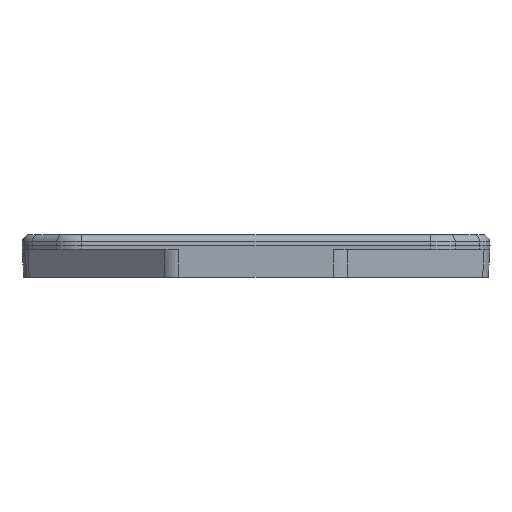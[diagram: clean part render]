
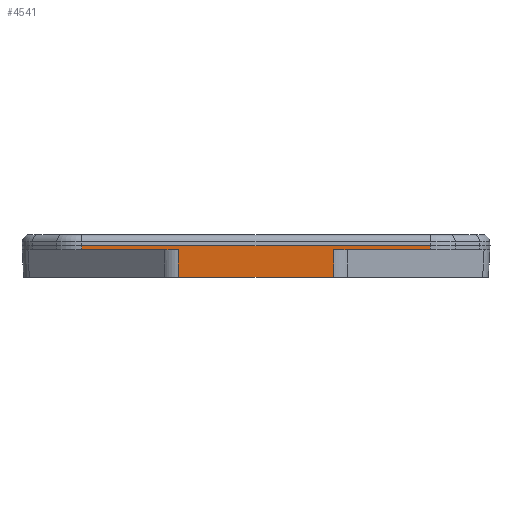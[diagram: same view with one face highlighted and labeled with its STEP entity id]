
A CAD part, left-side view. The second image highlights one B-rep face of the part: STEP entity #4541.
In plain terms, the highlighted planar face has unit normal (-0.999, 0, -0.052).
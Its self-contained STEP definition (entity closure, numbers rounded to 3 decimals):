
#146=PLANE('',#4991);
#490=FACE_OUTER_BOUND('',#742,.T.);
#742=EDGE_LOOP('',(#3298,#3299,#3300,#3301,#3302,#3303,#3304,#3305));
#1067=LINE('',#7623,#1423);
#1068=LINE('',#7625,#1424);
#1069=LINE('',#7627,#1425);
#1070=LINE('',#7629,#1426);
#1071=LINE('',#7631,#1427);
#1072=LINE('',#7633,#1428);
#1073=LINE('',#7635,#1429);
#1074=LINE('',#7636,#1430);
#1423=VECTOR('',#5943,10.);
#1424=VECTOR('',#5944,10.);
#1425=VECTOR('',#5945,10.);
#1426=VECTOR('',#5946,10.);
#1427=VECTOR('',#5947,1.);
#1428=VECTOR('',#5948,1.);
#1429=VECTOR('',#5949,9.);
#1430=VECTOR('',#5950,10.);
#1985=VERTEX_POINT('',#7621);
#1986=VERTEX_POINT('',#7622);
#1987=VERTEX_POINT('',#7624);
#1988=VERTEX_POINT('',#7626);
#1989=VERTEX_POINT('',#7628);
#1990=VERTEX_POINT('',#7630);
#1991=VERTEX_POINT('',#7632);
#1992=VERTEX_POINT('',#7634);
#2484=EDGE_CURVE('',#1985,#1986,#1067,.T.);
#2485=EDGE_CURVE('',#1987,#1986,#1068,.T.);
#2486=EDGE_CURVE('',#1988,#1987,#1069,.T.);
#2487=EDGE_CURVE('',#1989,#1988,#1070,.T.);
#2488=EDGE_CURVE('',#1990,#1989,#1071,.F.);
#2489=EDGE_CURVE('',#1991,#1990,#1072,.F.);
#2490=EDGE_CURVE('',#1992,#1991,#1073,.T.);
#2491=EDGE_CURVE('',#1985,#1992,#1074,.T.);
#3298=ORIENTED_EDGE('',*,*,#2484,.T.);
#3299=ORIENTED_EDGE('',*,*,#2485,.F.);
#3300=ORIENTED_EDGE('',*,*,#2486,.F.);
#3301=ORIENTED_EDGE('',*,*,#2487,.F.);
#3302=ORIENTED_EDGE('',*,*,#2488,.F.);
#3303=ORIENTED_EDGE('',*,*,#2489,.F.);
#3304=ORIENTED_EDGE('',*,*,#2490,.F.);
#3305=ORIENTED_EDGE('',*,*,#2491,.F.);
#4541=ADVANCED_FACE('',(#490),#146,.F.);
#4991=AXIS2_PLACEMENT_3D('',#7620,#5941,#5942);
#5941=DIRECTION('center_axis',(0.999,0.,0.052));
#5942=DIRECTION('ref_axis',(0.,1.,0.));
#5943=DIRECTION('',(0.052,-0.022,-0.998));
#5944=DIRECTION('',(0.,1.,0.));
#5945=DIRECTION('',(0.052,0.022,-0.998));
#5946=DIRECTION('',(0.,1.,0.));
#5947=DIRECTION('',(-0.052,0.,0.999));
#5948=DIRECTION('',(0.,1.,0.));
#5949=DIRECTION('',(-0.052,0.,0.999));
#5950=DIRECTION('',(0.,1.,0.));
#7620=CARTESIAN_POINT('Origin',(-60.,0.,-2.85));
#7621=CARTESIAN_POINT('',(-59.948,19.984,-3.85));
#7622=CARTESIAN_POINT('',(-59.573,19.829,-11.));
#7623=CARTESIAN_POINT('',(-60.,20.006,-2.855));
#7624=CARTESIAN_POINT('',(-59.573,-19.829,-11.));
#7625=CARTESIAN_POINT('',(-59.573,11.,-11.));
#7626=CARTESIAN_POINT('',(-59.948,-19.984,-3.85));
#7627=CARTESIAN_POINT('',(-60.,-20.006,-2.855));
#7628=CARTESIAN_POINT('',(-59.948,-44.742,-3.85));
#7629=CARTESIAN_POINT('',(-59.948,0.,-3.85));
#7630=CARTESIAN_POINT('',(-60.,-44.742,-2.85));
#7631=CARTESIAN_POINT('',(-59.786,-44.742,-6.925));
#7632=CARTESIAN_POINT('',(-60.,44.742,-2.85));
#7633=CARTESIAN_POINT('',(-60.,-4999977.629,-2.85));
#7634=CARTESIAN_POINT('',(-59.948,44.742,-3.85));
#7635=CARTESIAN_POINT('',(-60.,44.742,-2.85));
#7636=CARTESIAN_POINT('',(-59.948,0.,-3.85));
